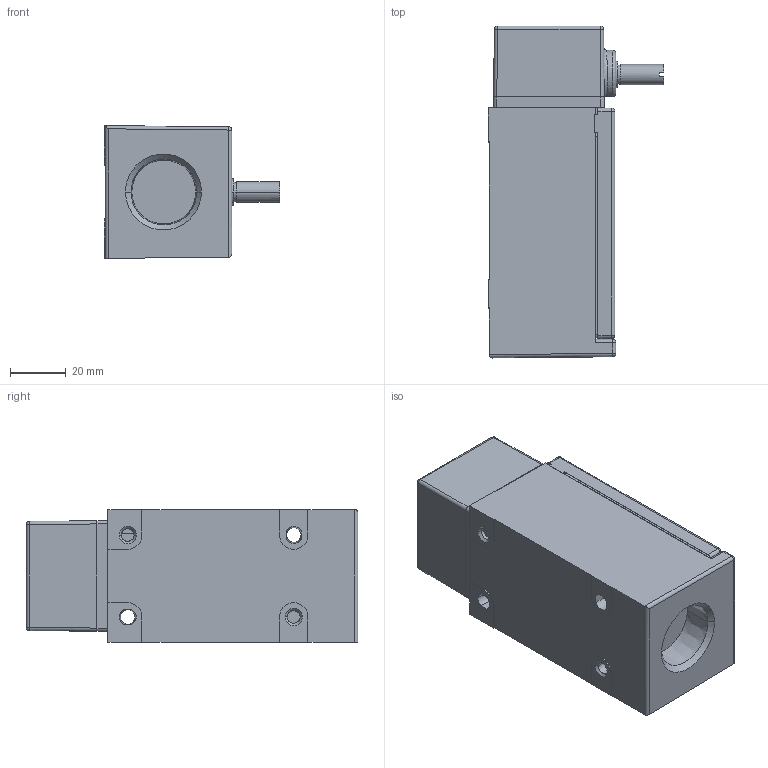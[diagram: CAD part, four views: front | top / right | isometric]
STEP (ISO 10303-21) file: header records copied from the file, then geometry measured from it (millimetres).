
FILE_DESCRIPTION((''),'2;1');
FILE_NAME('LSA4L_SW','2012-12-06T',('E522935'),(''),'PRO/ENGINEER BY PARAMETRIC TECHNOLOGY CORPORATION, 2009460','PRO/ENGINEER BY PARAMETRIC TECHNOLOGY CORPORATION, 2009460','');
FILE_SCHEMA(('CONFIG_CONTROL_DESIGN'));
Length unit declared in the file: inch
Products named in the file (1): LSA4L_SW
Bounding box: 62.87 x 118.99 x 47.62 mm (x, y, z)
Volume: 226752.8 mm3; surface area: 30870.8 mm2
Topology: 1 solids, 2 shells, 463 faces, 1143 edges, 703 vertices
Faces by surface type: plane 259, cylinder 151, cone 26, sphere 23, bspline 3, torus 1
Entity records: 14877 total; most frequent: CARTESIAN_POINT 3724, DIRECTION 2393, ORIENTED_EDGE 2286, EDGE_CURVE 1143, AXIS2_PLACEMENT_3D 865, VERTEX_POINT 703, VECTOR 663, LINE 663
